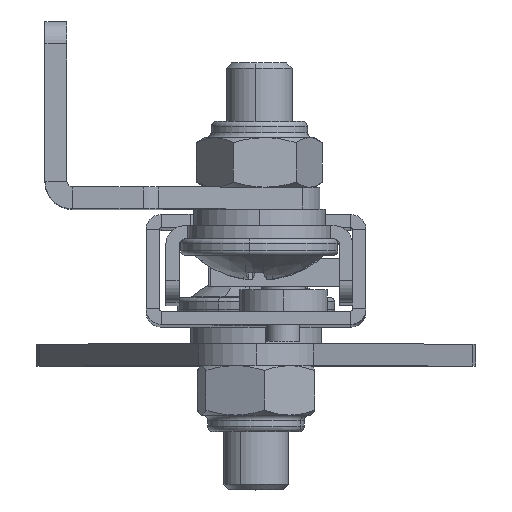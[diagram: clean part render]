
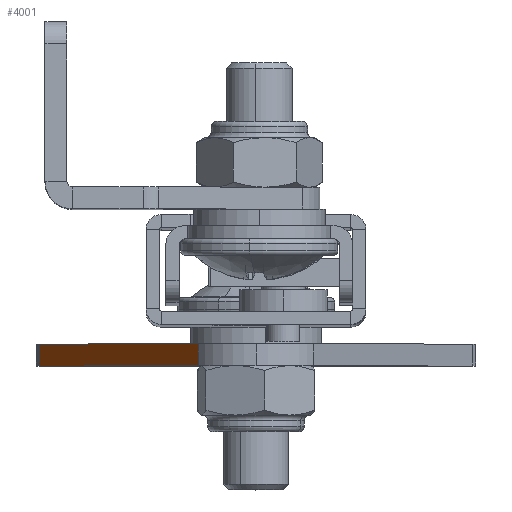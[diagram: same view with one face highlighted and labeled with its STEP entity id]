
A CAD part, top view. The second image highlights one B-rep face of the part: STEP entity #4001.
In plain terms, the highlighted planar face has unit normal (-0.866, 0, 0.5) as drawn and (0.866, 0, -0.5) by its records, which use the part's own axes.
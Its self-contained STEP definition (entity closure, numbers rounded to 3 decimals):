
#40 = ORIENTED_EDGE ( 'NONE', *, *, #5407, .F. ) ;
#334 = AXIS2_PLACEMENT_3D ( 'NONE', #1961, #658, #716 ) ;
#421 = EDGE_CURVE ( 'NONE', #6766, #3523, #4492, .T. ) ;
#658 = DIRECTION ( 'NONE',  ( -0.866, 0., 0.5 ) ) ;
#716 = DIRECTION ( 'NONE',  ( 0.5, 0., 0.866 ) ) ;
#845 = VECTOR ( 'NONE', #1321, 1000. ) ;
#1321 = DIRECTION ( 'NONE',  ( -0.5, 0., -0.866 ) ) ;
#1340 = LINE ( 'NONE', #7866, #2925 ) ;
#1582 = CARTESIAN_POINT ( 'NONE',  ( 5.257, 1., -16.25 ) ) ;
#1961 = CARTESIAN_POINT ( 'NONE',  ( 5.257, 1., -16.25 ) ) ;
#1975 = CARTESIAN_POINT ( 'NONE',  ( 5.257, -1., -16.25 ) ) ;
#2394 = CARTESIAN_POINT ( 'NONE',  ( 19.732, -1., 8.821 ) ) ;
#2925 = VECTOR ( 'NONE', #7928, 1000. ) ;
#3166 = LINE ( 'NONE', #5720, #6595 ) ;
#3498 = PLANE ( 'NONE',  #334 ) ;
#3523 = VERTEX_POINT ( 'NONE', #5075 ) ;
#3581 = VECTOR ( 'NONE', #4694, 1000. ) ;
#3935 = ORIENTED_EDGE ( 'NONE', *, *, #5048, .T. ) ;
#4001 = ADVANCED_FACE ( 'NONE', ( #8431 ), #3498, .F. ) ;
#4492 = LINE ( 'NONE', #1582, #845 ) ;
#4656 = CARTESIAN_POINT ( 'NONE',  ( 5.257, 1., -16.25 ) ) ;
#4694 = DIRECTION ( 'NONE',  ( 0., -1., 0. ) ) ;
#4934 = VERTEX_POINT ( 'NONE', #1975 ) ;
#5014 = ORIENTED_EDGE ( 'NONE', *, *, #6801, .T. ) ;
#5048 = EDGE_CURVE ( 'NONE', #6766, #8711, #1340, .T. ) ;
#5075 = CARTESIAN_POINT ( 'NONE',  ( 5.257, 1., -16.25 ) ) ;
#5407 = EDGE_CURVE ( 'NONE', #3523, #4934, #7382, .T. ) ;
#5720 = CARTESIAN_POINT ( 'NONE',  ( 5.257, -1., -16.25 ) ) ;
#6170 = ORIENTED_EDGE ( 'NONE', *, *, #421, .F. ) ;
#6386 = DIRECTION ( 'NONE',  ( -0.5, 0., -0.866 ) ) ;
#6595 = VECTOR ( 'NONE', #6386, 1000. ) ;
#6766 = VERTEX_POINT ( 'NONE', #8304 ) ;
#6801 = EDGE_CURVE ( 'NONE', #8711, #4934, #3166, .T. ) ;
#7382 = LINE ( 'NONE', #4656, #3581 ) ;
#7626 = EDGE_LOOP ( 'NONE', ( #6170, #3935, #5014, #40 ) ) ;
#7866 = CARTESIAN_POINT ( 'NONE',  ( 19.732, 1., 8.821 ) ) ;
#7928 = DIRECTION ( 'NONE',  ( 0., -1., 0. ) ) ;
#8304 = CARTESIAN_POINT ( 'NONE',  ( 19.732, 1., 8.821 ) ) ;
#8431 = FACE_OUTER_BOUND ( 'NONE', #7626, .T. ) ;
#8711 = VERTEX_POINT ( 'NONE', #2394 ) ;
